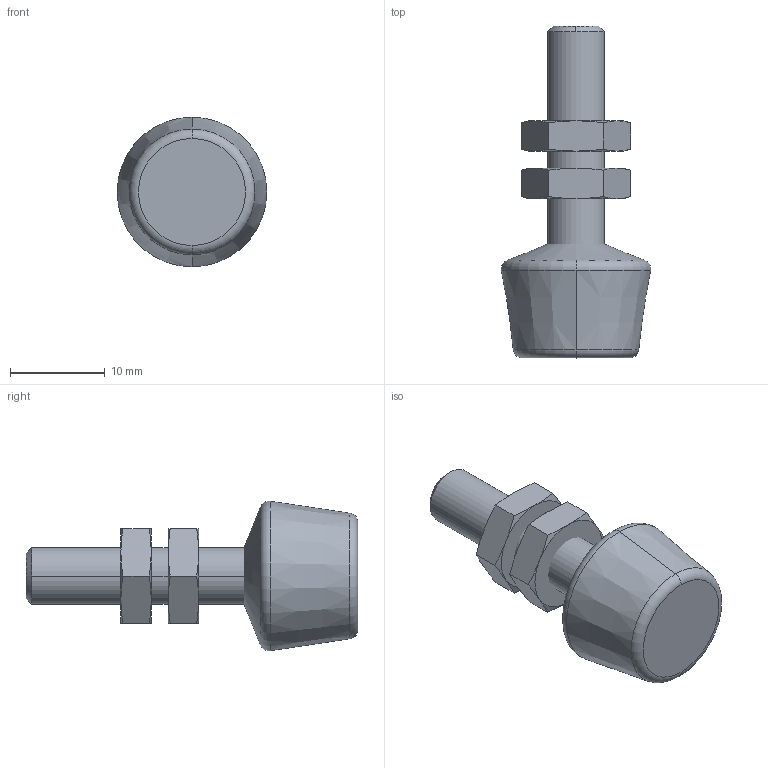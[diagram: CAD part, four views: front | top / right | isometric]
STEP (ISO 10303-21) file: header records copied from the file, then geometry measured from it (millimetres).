
FILE_DESCRIPTION (( 'STEP AP214' ), '1' );
FILE_NAME ('708.1-M6-35-A-ST.step', '2020-10-29T14:57:30', ( '' ), ( '' ), 'SwSTEP 2.0', 'SolidWorks 2019', '' );
FILE_SCHEMA (( 'AUTOMOTIVE_DESIGN' ));
Length unit declared in the file: millimetre
Products named in the file (3): WB708.1^WB708.1_M6-35-A-ST; WB4035^WB708.1_M6; 708.1-M6-35-A-ST
Assembly tree (3 placements, depth 2):
  708.1-M6-35-A-ST
    WB708.1^WB708.1_M6-35-A-ST
    WB4035^WB708.1_M6  x2
Bounding box: 15.79 x 35 x 15.79 mm (x, y, z)
Volume: 2922 mm3; surface area: 1790.2 mm2
Topology: 3 solids, 3 shells, 58 faces, 126 edges, 74 vertices
Faces by surface type: cone 30, plane 18, cylinder 6, torus 4
Entity records: 1207 total; most frequent: CARTESIAN_POINT 246, DIRECTION 176, ORIENTED_EDGE 156, AXIS2_PLACEMENT_3D 80, EDGE_CURVE 78, VERTEX_POINT 46, EDGE_LOOP 38, CIRCLE 38
